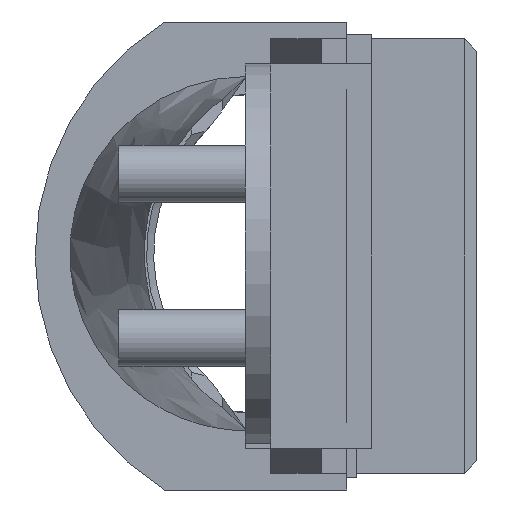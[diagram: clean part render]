
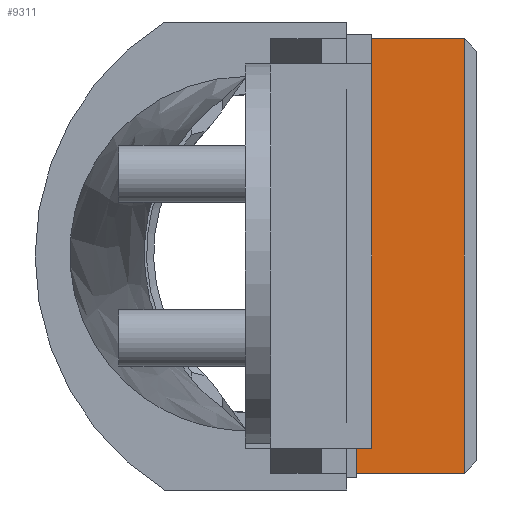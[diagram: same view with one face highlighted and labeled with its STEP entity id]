
A CAD part, left-side view. The second image highlights one B-rep face of the part: STEP entity #9311.
In plain terms, the highlighted planar face has unit normal (-1, 0, 0).
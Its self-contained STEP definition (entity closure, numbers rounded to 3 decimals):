
#5539 = PLANE('',#5540);
#5540 = AXIS2_PLACEMENT_3D('',#5541,#5542,#5543);
#5541 = CARTESIAN_POINT('',(0.,-6.,0.));
#5542 = DIRECTION('',(0.,1.,0.));
#5543 = DIRECTION('',(0.,-0.,1.));
#7442 = VERTEX_POINT('',#7443);
#7443 = CARTESIAN_POINT('',(54.925,-6.,-17.19));
#7457 = PLANE('',#7458);
#7458 = AXIS2_PLACEMENT_3D('',#7459,#7460,#7461);
#7459 = CARTESIAN_POINT('',(27.725,-4.,-17.19));
#7460 = DIRECTION('',(0.,0.,1.));
#7461 = DIRECTION('',(1.,0.,-0.));
#7469 = EDGE_CURVE('',#7470,#7442,#7472,.T.);
#7470 = VERTEX_POINT('',#7471);
#7471 = CARTESIAN_POINT('',(54.925,-6.,17.19));
#7472 = SURFACE_CURVE('',#7473,(#7477,#7484),.PCURVE_S1.);
#7473 = LINE('',#7474,#7475);
#7474 = CARTESIAN_POINT('',(54.925,-6.,0.));
#7475 = VECTOR('',#7476,1.);
#7476 = DIRECTION('',(-0.,0.,-1.));
#7477 = PCURVE('',#5539,#7478);
#7478 = DEFINITIONAL_REPRESENTATION('',(#7479),#7483);
#7479 = LINE('',#7480,#7481);
#7480 = CARTESIAN_POINT('',(0.,54.925));
#7481 = VECTOR('',#7482,1.);
#7482 = DIRECTION('',(-1.,0.));
#7483 = ( GEOMETRIC_REPRESENTATION_CONTEXT(2) 
PARAMETRIC_REPRESENTATION_CONTEXT() REPRESENTATION_CONTEXT('2D SPACE',''
  ) );
#7484 = PCURVE('',#7485,#7490);
#7485 = PLANE('',#7486);
#7486 = AXIS2_PLACEMENT_3D('',#7487,#7488,#7489);
#7487 = CARTESIAN_POINT('',(54.925,-14.3,17.19));
#7488 = DIRECTION('',(1.,0.,0.));
#7489 = DIRECTION('',(0.,0.,-1.));
#7490 = DEFINITIONAL_REPRESENTATION('',(#7491),#7495);
#7491 = LINE('',#7492,#7493);
#7492 = CARTESIAN_POINT('',(17.19,8.3));
#7493 = VECTOR('',#7494,1.);
#7494 = DIRECTION('',(1.,0.));
#7495 = ( GEOMETRIC_REPRESENTATION_CONTEXT(2) 
PARAMETRIC_REPRESENTATION_CONTEXT() REPRESENTATION_CONTEXT('2D SPACE',''
  ) );
#7513 = PLANE('',#7514);
#7514 = AXIS2_PLACEMENT_3D('',#7515,#7516,#7517);
#7515 = CARTESIAN_POINT('',(27.725,-4.,17.19));
#7516 = DIRECTION('',(0.,0.,-1.));
#7517 = DIRECTION('',(-1.,0.,-0.));
#9311 = ADVANCED_FACE('',(#9312),#7485,.F.);
#9312 = FACE_BOUND('',#9313,.T.);
#9313 = EDGE_LOOP('',(#9314,#9337,#9338,#9361));
#9314 = ORIENTED_EDGE('',*,*,#9315,.F.);
#9315 = EDGE_CURVE('',#7470,#9316,#9318,.T.);
#9316 = VERTEX_POINT('',#9317);
#9317 = CARTESIAN_POINT('',(54.925,-15.3,17.19));
#9318 = SURFACE_CURVE('',#9319,(#9323,#9330),.PCURVE_S1.);
#9319 = LINE('',#9320,#9321);
#9320 = CARTESIAN_POINT('',(54.925,-14.3,17.19));
#9321 = VECTOR('',#9322,1.);
#9322 = DIRECTION('',(0.,-1.,-0.));
#9323 = PCURVE('',#7485,#9324);
#9324 = DEFINITIONAL_REPRESENTATION('',(#9325),#9329);
#9325 = LINE('',#9326,#9327);
#9326 = CARTESIAN_POINT('',(0.,0.));
#9327 = VECTOR('',#9328,1.);
#9328 = DIRECTION('',(0.,-1.));
#9329 = ( GEOMETRIC_REPRESENTATION_CONTEXT(2) 
PARAMETRIC_REPRESENTATION_CONTEXT() REPRESENTATION_CONTEXT('2D SPACE',''
  ) );
#9330 = PCURVE('',#7513,#9331);
#9331 = DEFINITIONAL_REPRESENTATION('',(#9332),#9336);
#9332 = LINE('',#9333,#9334);
#9333 = CARTESIAN_POINT('',(-27.2,-10.3));
#9334 = VECTOR('',#9335,1.);
#9335 = DIRECTION('',(-0.,-1.));
#9336 = ( GEOMETRIC_REPRESENTATION_CONTEXT(2) 
PARAMETRIC_REPRESENTATION_CONTEXT() REPRESENTATION_CONTEXT('2D SPACE',''
  ) );
#9337 = ORIENTED_EDGE('',*,*,#7469,.T.);
#9338 = ORIENTED_EDGE('',*,*,#9339,.F.);
#9339 = EDGE_CURVE('',#9340,#7442,#9342,.T.);
#9340 = VERTEX_POINT('',#9341);
#9341 = CARTESIAN_POINT('',(54.925,-15.3,-17.19));
#9342 = SURFACE_CURVE('',#9343,(#9347,#9354),.PCURVE_S1.);
#9343 = LINE('',#9344,#9345);
#9344 = CARTESIAN_POINT('',(54.925,-14.3,-17.19));
#9345 = VECTOR('',#9346,1.);
#9346 = DIRECTION('',(-0.,1.,0.));
#9347 = PCURVE('',#7485,#9348);
#9348 = DEFINITIONAL_REPRESENTATION('',(#9349),#9353);
#9349 = LINE('',#9350,#9351);
#9350 = CARTESIAN_POINT('',(34.38,0.));
#9351 = VECTOR('',#9352,1.);
#9352 = DIRECTION('',(0.,1.));
#9353 = ( GEOMETRIC_REPRESENTATION_CONTEXT(2) 
PARAMETRIC_REPRESENTATION_CONTEXT() REPRESENTATION_CONTEXT('2D SPACE',''
  ) );
#9354 = PCURVE('',#7457,#9355);
#9355 = DEFINITIONAL_REPRESENTATION('',(#9356),#9360);
#9356 = LINE('',#9357,#9358);
#9357 = CARTESIAN_POINT('',(27.2,-10.3));
#9358 = VECTOR('',#9359,1.);
#9359 = DIRECTION('',(0.,1.));
#9360 = ( GEOMETRIC_REPRESENTATION_CONTEXT(2) 
PARAMETRIC_REPRESENTATION_CONTEXT() REPRESENTATION_CONTEXT('2D SPACE',''
  ) );
#9361 = ORIENTED_EDGE('',*,*,#9362,.F.);
#9362 = EDGE_CURVE('',#9316,#9340,#9363,.T.);
#9363 = SURFACE_CURVE('',#9364,(#9368,#9375),.PCURVE_S1.);
#9364 = LINE('',#9365,#9366);
#9365 = CARTESIAN_POINT('',(54.925,-15.3,17.19));
#9366 = VECTOR('',#9367,1.);
#9367 = DIRECTION('',(0.,0.,-1.));
#9368 = PCURVE('',#7485,#9369);
#9369 = DEFINITIONAL_REPRESENTATION('',(#9370),#9374);
#9370 = LINE('',#9371,#9372);
#9371 = CARTESIAN_POINT('',(0.,-1.));
#9372 = VECTOR('',#9373,1.);
#9373 = DIRECTION('',(1.,0.));
#9374 = ( GEOMETRIC_REPRESENTATION_CONTEXT(2) 
PARAMETRIC_REPRESENTATION_CONTEXT() REPRESENTATION_CONTEXT('2D SPACE',''
  ) );
#9375 = PCURVE('',#9376,#9381);
#9376 = PLANE('',#9377);
#9377 = AXIS2_PLACEMENT_3D('',#9378,#9379,#9380);
#9378 = CARTESIAN_POINT('',(52.925,-15.3,-17.19));
#9379 = DIRECTION('',(0.,-1.,0.));
#9380 = DIRECTION('',(0.,-0.,-1.));
#9381 = DEFINITIONAL_REPRESENTATION('',(#9382),#9386);
#9382 = LINE('',#9383,#9384);
#9383 = CARTESIAN_POINT('',(-34.38,2.));
#9384 = VECTOR('',#9385,1.);
#9385 = DIRECTION('',(1.,0.));
#9386 = ( GEOMETRIC_REPRESENTATION_CONTEXT(2) 
PARAMETRIC_REPRESENTATION_CONTEXT() REPRESENTATION_CONTEXT('2D SPACE',''
  ) );
